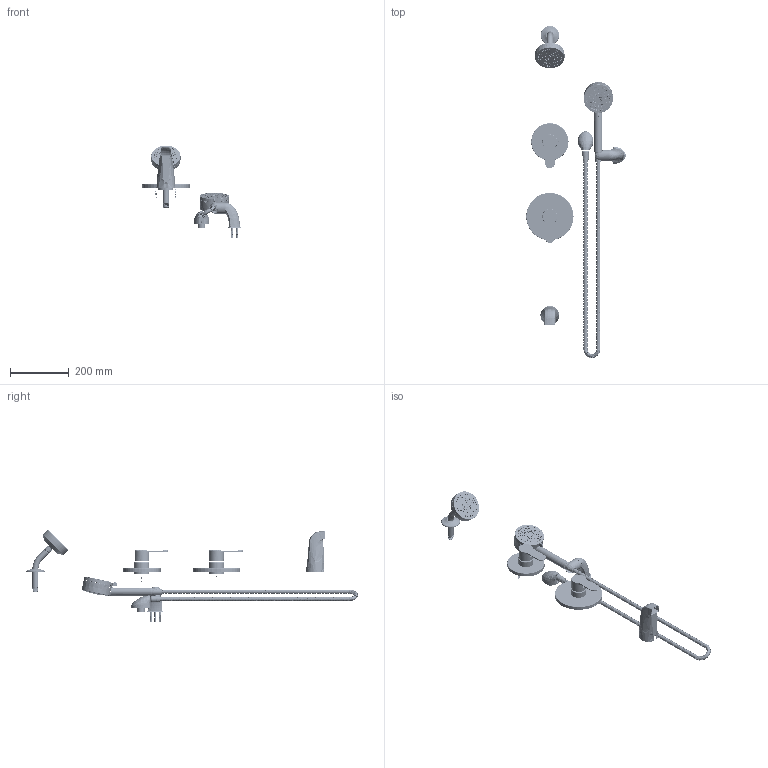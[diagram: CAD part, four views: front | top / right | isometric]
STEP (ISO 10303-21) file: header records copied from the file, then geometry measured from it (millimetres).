
FILE_DESCRIPTION (( 'STEP AP214' ), '1' );
FILE_NAME ('6796TRM.STEP', '2025-01-15T09:20:57', ( '' ), ( '' ), 'SwSTEP 2.0', 'SolidWorks 2023', '' );
FILE_SCHEMA (( 'AUTOMOTIVE_DESIGN' ));
Length unit declared in the file: inch
Products named in the file (1): 6796TRM
Bounding box: 338.79 x 1129.19 x 315.54 mm (x, y, z)
Surface area: 464743.8 mm2 (no closed solid volume)
Topology: 0 solids, 464 shells, 1915 faces, 7320 edges, 5608 vertices
Faces by surface type: bspline 505, cone 467, cylinder 411, plane 383, torus 130, sphere 19
Entity records: 319406 total; most frequent: CARTESIAN_POINT 266817, ORIENTED_EDGE 10053, DIRECTION 8615, EDGE_CURVE 7306, VERTEX_POINT 5605, AXIS2_PLACEMENT_3D 3363, B_SPLINE_CURVE_WITH_KNOTS 3178, EDGE_LOOP 2388
